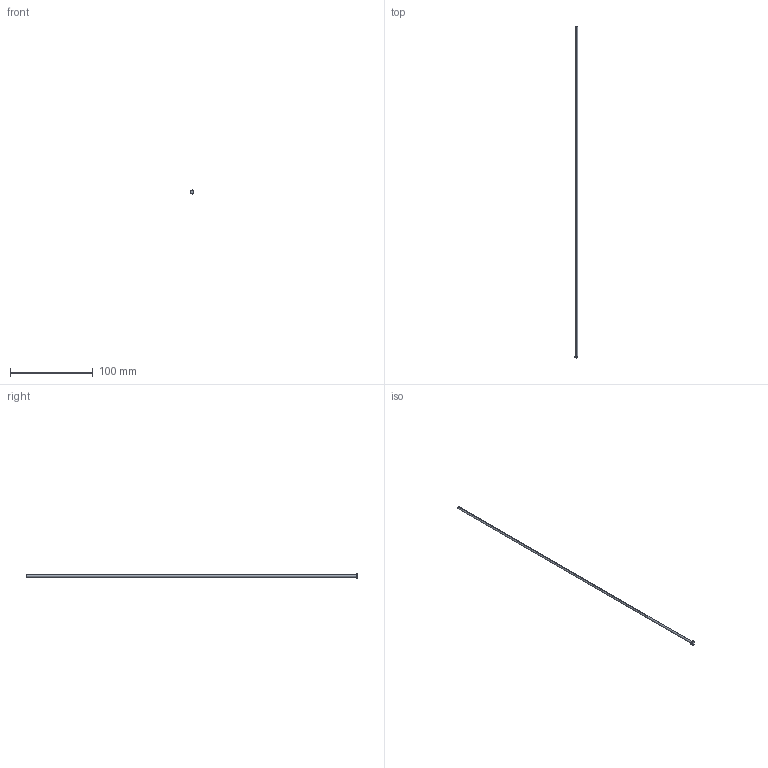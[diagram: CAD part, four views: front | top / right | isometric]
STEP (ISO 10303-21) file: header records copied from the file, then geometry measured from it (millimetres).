
FILE_DESCRIPTION (( 'STEP AP203' ), '1' );
FILE_NAME ('EPD027L400-K.step', '2022-04-09T02:54:28', ( 'Microsoft Corporation' ), ( 'MS' ), 'SwSTEP 2.0', 'SolidWorks 2019', '' );
FILE_SCHEMA (( 'CONFIG_CONTROL_DESIGN' ));
Length unit declared in the file: millimetre
Products named in the file (1): EPD027L400-K
Bounding box: 3.85 x 400 x 5 mm (x, y, z)
Volume: 2310.9 mm3; surface area: 3434.9 mm2
Topology: 1 solids, 1 shells, 18 faces, 41 edges, 25 vertices
Faces by surface type: cone 6, cylinder 5, plane 4, torus 3
Entity records: 598 total; most frequent: CARTESIAN_POINT 107, DIRECTION 95, ORIENTED_EDGE 82, EDGE_CURVE 41, AXIS2_PLACEMENT_3D 41, VERTEX_POINT 25, CIRCLE 22, ADVANCED_FACE 18
